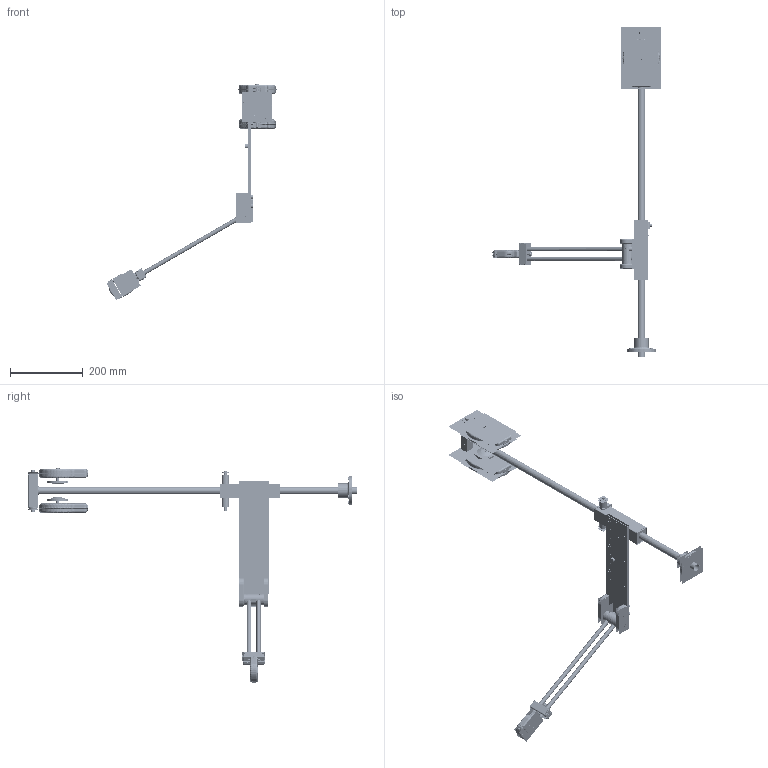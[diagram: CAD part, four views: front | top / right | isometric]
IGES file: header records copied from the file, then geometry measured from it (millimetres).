
Start section:  PTC IGES file: 6158107070_asm.igs
Global section: file name: 6158107070_asm.igs; native system: Creo Parametric by Parametric Technology Corporation; preprocessor: 2014200; author: Greextfpav; organization: Unknown; date: 20150427.142634; units: millimetre
Bounding box: 467.95 x 906.88 x 591.65 mm (x, y, z)
Volume: 1125173 mm3; surface area: 2640084.9 mm2
Topology: 257 solids, 308 shells, 10492 faces, 53309 edges, 65990 vertices
Faces by surface type: revolution 3772, bspline 3520, extrusion 3200
